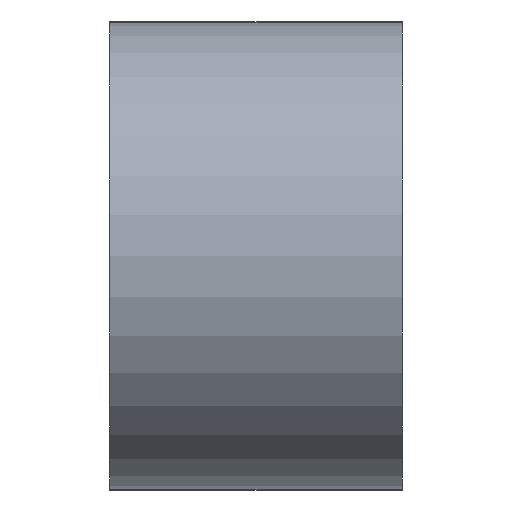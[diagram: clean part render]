
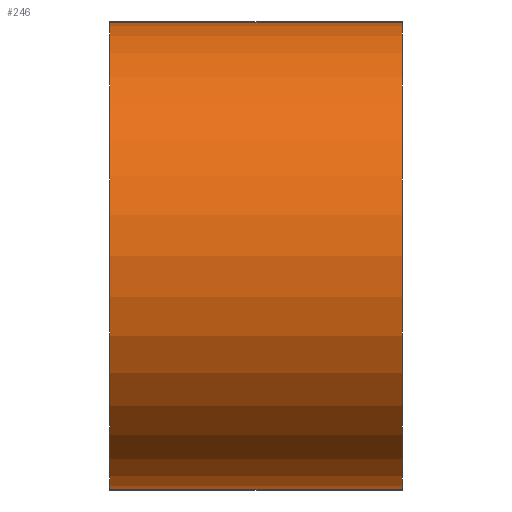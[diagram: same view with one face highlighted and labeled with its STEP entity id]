
A CAD part, left-side view. The second image highlights one B-rep face of the part: STEP entity #246.
In plain terms, the highlighted cylindrical face has radius 4 mm (diameter 8 mm), a partial arc.
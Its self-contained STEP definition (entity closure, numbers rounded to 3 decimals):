
#9 = EDGE_LOOP ( 'NONE', ( #83, #77, #202, #122 ) ) ;
#28 = VECTOR ( 'NONE', #462, 1000. ) ;
#33 = CARTESIAN_POINT ( 'NONE',  ( 0., 0., 0. ) ) ;
#37 = CARTESIAN_POINT ( 'NONE',  ( 0., 0., 0. ) ) ;
#43 = DIRECTION ( 'NONE',  ( 0., 0., 1. ) ) ;
#48 = VECTOR ( 'NONE', #147, 1000. ) ;
#51 = AXIS2_PLACEMENT_3D ( 'NONE', #297, #120, #338 ) ;
#58 = EDGE_CURVE ( 'NONE', #289, #273, #248, .T. ) ;
#74 = CARTESIAN_POINT ( 'NONE',  ( 0., 0., -4. ) ) ;
#77 = ORIENTED_EDGE ( 'NONE', *, *, #111, .T. ) ;
#83 = ORIENTED_EDGE ( 'NONE', *, *, #58, .F. ) ;
#111 = EDGE_CURVE ( 'NONE', #289, #274, #400, .T. ) ;
#120 = DIRECTION ( 'NONE',  ( 0., 1., 0. ) ) ;
#122 = ORIENTED_EDGE ( 'NONE', *, *, #232, .F. ) ;
#147 = DIRECTION ( 'NONE',  ( 0., 1., 0. ) ) ;
#177 = AXIS2_PLACEMENT_3D ( 'NONE', #33, #251, #486 ) ;
#179 = AXIS2_PLACEMENT_3D ( 'NONE', #37, #422, #43 ) ;
#202 = ORIENTED_EDGE ( 'NONE', *, *, #361, .T. ) ;
#223 = CYLINDRICAL_SURFACE ( 'NONE', #177, 4. ) ;
#232 = EDGE_CURVE ( 'NONE', #273, #342, #431, .T. ) ;
#246 = ADVANCED_FACE ( 'NONE', ( #283 ), #223, .T. ) ;
#248 = LINE ( 'NONE', #74, #48 ) ;
#251 = DIRECTION ( 'NONE',  ( 0., 1., 0. ) ) ;
#260 = CARTESIAN_POINT ( 'NONE',  ( 0., 5., 4. ) ) ;
#273 = VERTEX_POINT ( 'NONE', #459 ) ;
#274 = VERTEX_POINT ( 'NONE', #377 ) ;
#283 = FACE_OUTER_BOUND ( 'NONE', #9, .T. ) ;
#289 = VERTEX_POINT ( 'NONE', #488 ) ;
#297 = CARTESIAN_POINT ( 'NONE',  ( 0., 5., 0. ) ) ;
#338 = DIRECTION ( 'NONE',  ( 0., 0., 1. ) ) ;
#342 = VERTEX_POINT ( 'NONE', #260 ) ;
#361 = EDGE_CURVE ( 'NONE', #274, #342, #435, .T. ) ;
#377 = CARTESIAN_POINT ( 'NONE',  ( 0., 0., 4. ) ) ;
#400 = CIRCLE ( 'NONE', #179, 4. ) ;
#412 = CARTESIAN_POINT ( 'NONE',  ( 0., 0., 4. ) ) ;
#422 = DIRECTION ( 'NONE',  ( 0., 1., 0. ) ) ;
#431 = CIRCLE ( 'NONE', #51, 4. ) ;
#435 = LINE ( 'NONE', #412, #28 ) ;
#459 = CARTESIAN_POINT ( 'NONE',  ( 0., 5., -4. ) ) ;
#462 = DIRECTION ( 'NONE',  ( 0., 1., 0. ) ) ;
#486 = DIRECTION ( 'NONE',  ( 0., 0., 1. ) ) ;
#488 = CARTESIAN_POINT ( 'NONE',  ( 0., 0., -4. ) ) ;
